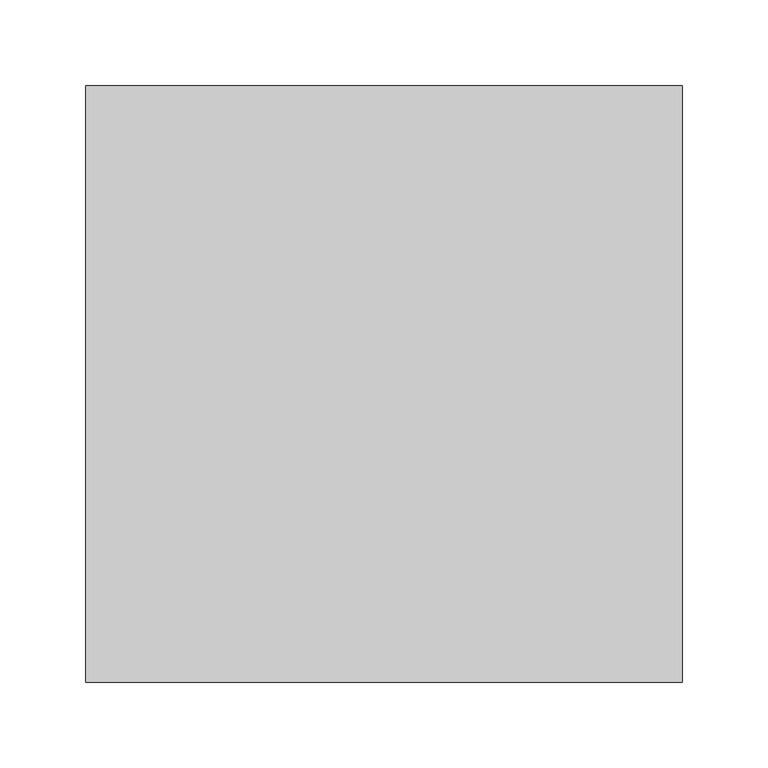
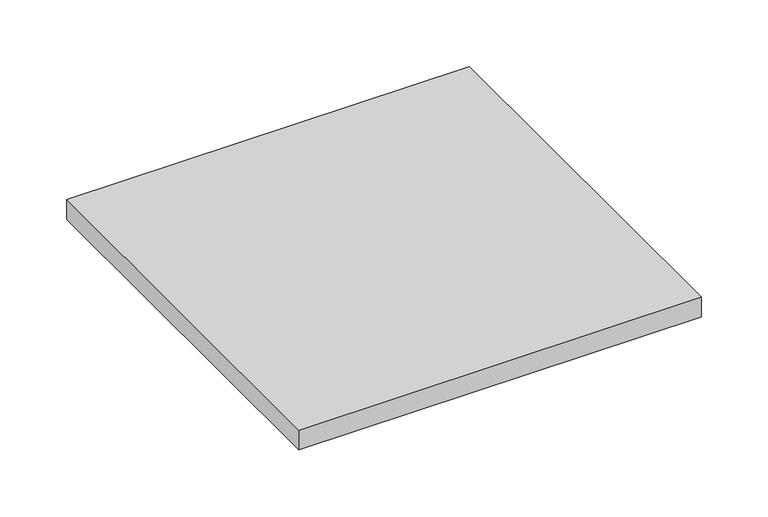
"""IFC4 building model written with IfcOpenShell, lengths in millimetres: proxy geometry, TECHNO_Решетка_KVU : Решетка рулонная деревянная / Светлое дерево."""

from ifc_helpers import new_model, si_unit, frame, origin, place, context, project, spatial, polyline, outline, extrude, source, transform, mapped, element, save


def mechanical_equipment_74403092(model_context):
    return source(origin(), model_context, "Body", "SweptSolid", [
        extrude(outline(polyline([(173.8, 173.8), (173.8, -175.0), (-175.0, -175.0), (-175.0, 173.8), (173.8, 173.8)])), frame((0.0, 0.0, -18.1), z_axis=(0.0, 0.0, 1.0), x_axis=(1.0, 0.0, 0.0)), (0.0, 0.0, 1.0), 18.1),
    ])


if __name__ == "__main__":
    model = new_model("IFC4")
    model_context = context("Model", 3, world=origin())
    ifc_project = project(units=[si_unit("LENGTHUNIT", "METRE", prefix="MILLI")], contexts=[model_context])
    site = spatial("IfcSite", under=ifc_project)
    building = spatial("IfcBuilding", under=site)
    placement = place(None, origin())
    mechanical_equipment_shape = mechanical_equipment_74403092(model_context)
    element("IfcBuildingElementProxy", 1, Name="TECHNO_Решетка_KVU : Решетка рулонная деревянная / Светлое дерево", ObjectType="TECHNO_Решетка_KVU : Решетка рулонная деревянная / Светлое дерево", at=placement, inside=building, context=model_context, shape_type="MappedRepresentation", body=[
        mapped(mechanical_equipment_shape, transform((0.0, 0.0, 0.0), x_axis=(1.0, 0.0, 0.0), y_axis=(0.0, 1.0, 0.0), z_axis=(0.0, 0.0, 1.0))),
    ])
    save(model, "model.ifc")
